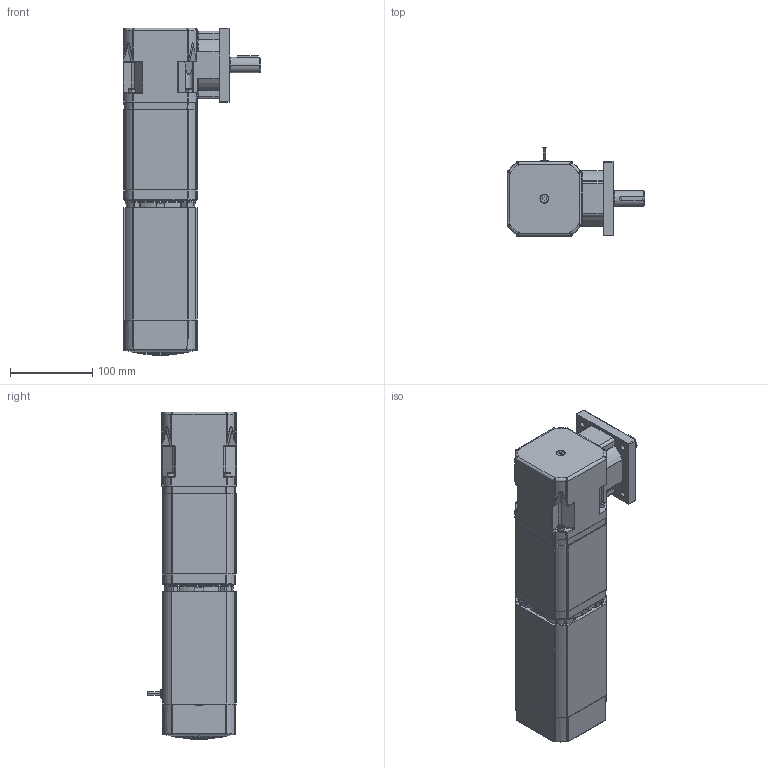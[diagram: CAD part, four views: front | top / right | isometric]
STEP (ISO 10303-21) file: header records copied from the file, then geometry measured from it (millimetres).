
FILE_DESCRIPTION (( 'STEP AP214' ), '1' );
FILE_NAME ('AC8060FC-RP7300_3S.STEP', '2013-08-28T20:11:18', ( '' ), ( '' ), 'SwSTEP 2.0', 'SolidWorks 2013', '' );
FILE_SCHEMA (( 'AUTOMOTIVE_DESIGN' ));
Length unit declared in the file: inch
Products named in the file (1): AC8060FC-RP7300_3S
Bounding box: 168.09 x 107.92 x 399.72 mm (x, y, z)
Surface area: 256572.5 mm2 (no closed solid volume)
Topology: 0 solids, 43 shells, 1369 faces, 4414 edges, 2957 vertices
Faces by surface type: plane 647, cylinder 417, bspline 119, cone 94, torus 65, sphere 27
Entity records: 70098 total; most frequent: CARTESIAN_POINT 14193, DIRECTION 8550, ORIENTED_EDGE 7086, EDGE_CURVE 4350, AXIS2_PLACEMENT_3D 3362, VERTEX_POINT 2957, CIRCLE 2111, VECTOR 1826
